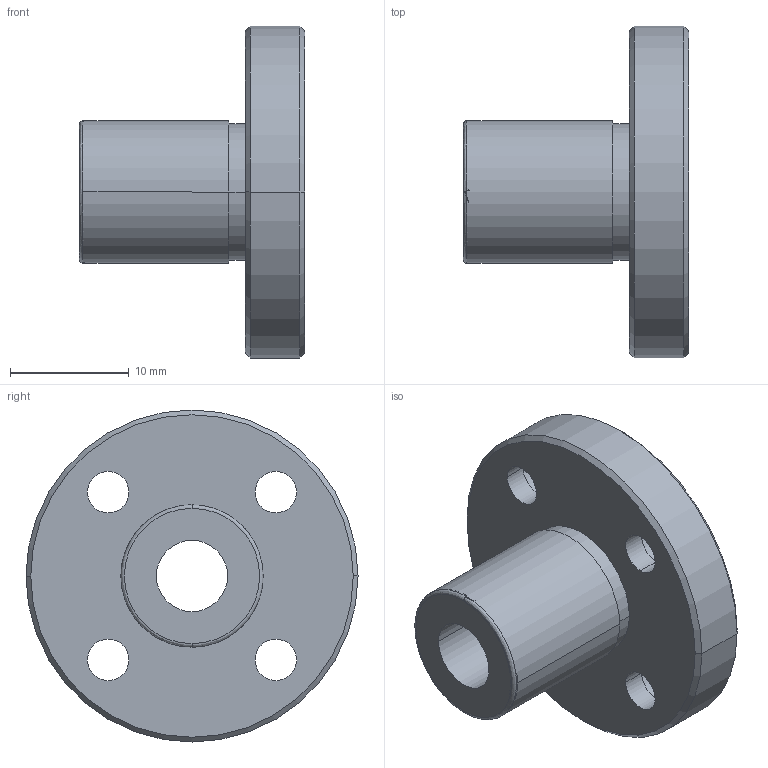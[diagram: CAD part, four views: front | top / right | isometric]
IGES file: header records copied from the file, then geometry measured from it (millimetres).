
Start section: 3D InterOp IGES (Version 21 0 1), Spatial Corp. Copyright (c) 1999-2007.
Global section: file name: NFED-6VUU.igs; native system: Spatial Corp.; preprocessor: 3D InterOp GENERIC/IGES 3.0; author: Noname; organization: Noname; date: 20220308.094025; units: millimetre
Bounding box: 19 x 28 x 28 mm (x, y, z)
Surface area: 2810.9 mm2 (no closed solid volume)
Topology: 0 solids, 0 shells, 38 faces, 178 edges, 176 vertices
Faces by surface type: revolution 30, extrusion 8
